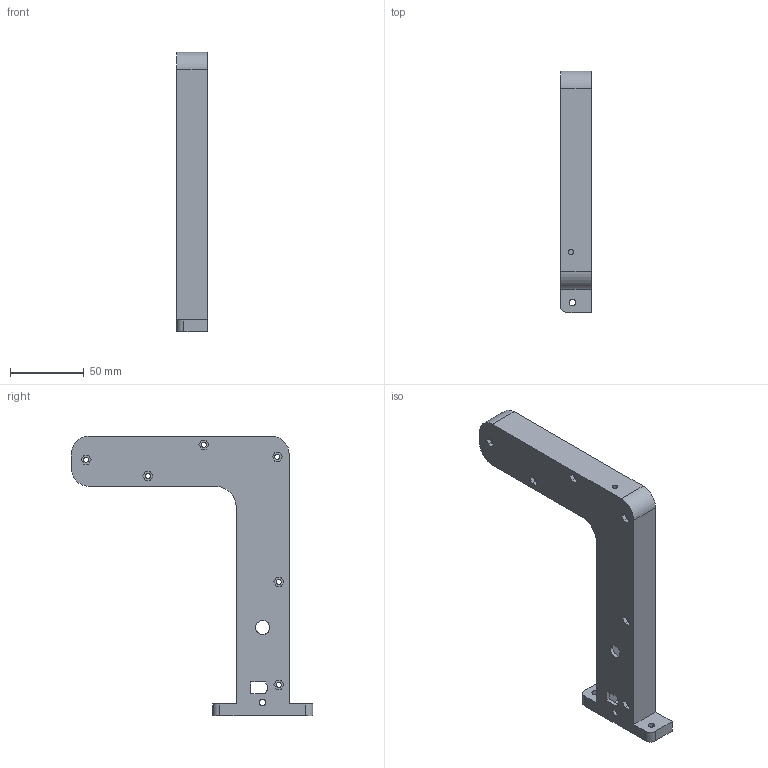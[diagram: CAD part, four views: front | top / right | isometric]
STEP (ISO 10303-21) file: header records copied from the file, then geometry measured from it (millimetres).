
FILE_DESCRIPTION(('FreeCAD Model'),'2;1');
FILE_NAME('Open CASCADE Shape Model','2026-11-06T11:24:15',('FreeCAD'),( 'FreeCAD'),'Open CASCADE STEP processor 7.8','FreeCAD','Unknown');
FILE_SCHEMA(('AUTOMOTIVE_DESIGN { 1 0 10303 214 1 1 1 1 }'));
Length unit declared in the file: millimetre
Products named in the file (1): Open CASCADE STEP translator 7.8 3
Bounding box: 21 x 164 x 190 mm (x, y, z)
Volume: 67868.2 mm3; surface area: 52988.6 mm2
Topology: 1 solids, 1 shells, 111 faces, 308 edges, 207 vertices
Faces by surface type: plane 77, cylinder 30, torus 3, extrusion 1
Full cylindrical faces by diameter (mm): 3.4 x6, 3.6 x1, 4.4 x1, 4.5 x2, 9.6 x1, 11 x2
Entity records: 4041 total; most frequent: CARTESIAN_POINT 1080, ORIENTED_EDGE 616, DIRECTION 590, EDGE_CURVE 308, VECTOR 228, LINE 227, VERTEX_POINT 207, AXIS2_PLACEMENT_3D 181
